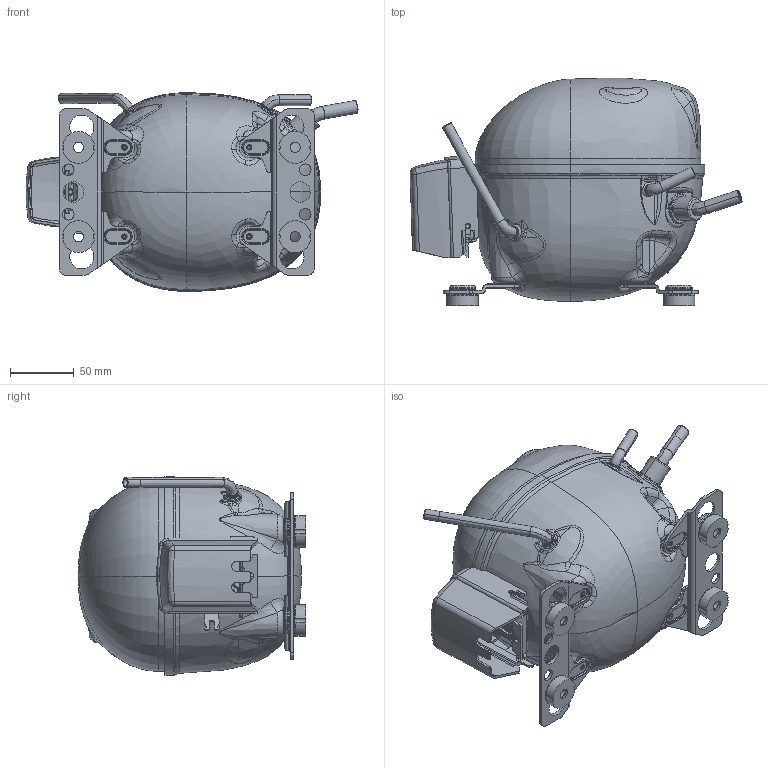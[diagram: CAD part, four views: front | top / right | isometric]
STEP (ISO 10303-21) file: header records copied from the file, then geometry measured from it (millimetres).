
FILE_DESCRIPTION((''),'2;1');
FILE_NAME('102B1251_102B1337_ASM','2019-01-30T',('U244840'),(''),'CREO PARAMETRIC BY PTC INC, 2015380','CREO PARAMETRIC BY PTC INC, 2015380','');
FILE_SCHEMA(('CONFIG_CONTROL_DESIGN'));
Products named in the file (21): 102B1476; 102B1515; 60-35175_1; 12-60705_GLASS_1; 12-60705_GLASS-OA0_1; 12-60705_GLASS-OA1_1; 50-41378_1; 60-41459_1; ASSEM1_1_ASM; 117-3629_ASM; 103N0590; 102B1838_PS_BENDING_AF1; 102B1970_PS_BENDING_AF1; 102B1944_BONAITI; 102B1948_PS_BENDING_AF0; 102B1955_PS_BENDING_ASM; 102B1251_PS_ASM; 102B1337; 103N0492_PS; 118-3661; 102B1251_102B1337_ASM
Assembly tree (26 placements, depth 5):
  102B1251_102B1337_ASM
    102B1251_PS_ASM
      102B1476
      102B1515  x2
      117-3629_ASM
        ASSEM1_1_ASM
          60-35175_1  x3
          12-60705_GLASS_1
          12-60705_GLASS-OA0_1
          12-60705_GLASS-OA1_1
          50-41378_1
          60-41459_1
      103N0590
      102B1838_PS_BENDING_AF1
      102B1970_PS_BENDING_AF1
      102B1955_PS_BENDING_ASM
        102B1944_BONAITI
        102B1948_PS_BENDING_AF0
    102B1337
    103N0492_PS
    118-3661  x4
Bounding box: 260.54 x 178.2 x 156.03 mm (x, y, z)
Volume: 395804.3 mm3; surface area: 297558.3 mm2
Topology: 22 solids, 22 shells, 1863 faces, 4565 edges, 2763 vertices
Faces by surface type: plane 505, bspline 427, cylinder 422, torus 264, cone 198, sphere 35, revolution 12
Entity records: 82815 total; most frequent: CARTESIAN_POINT 46402, ORIENTED_EDGE 7958, DIRECTION 6975, EDGE_CURVE 3979, AXIS2_PLACEMENT_3D 2712, VERTEX_POINT 2433, EDGE_LOOP 1736, FACE_OUTER_BOUND 1629
